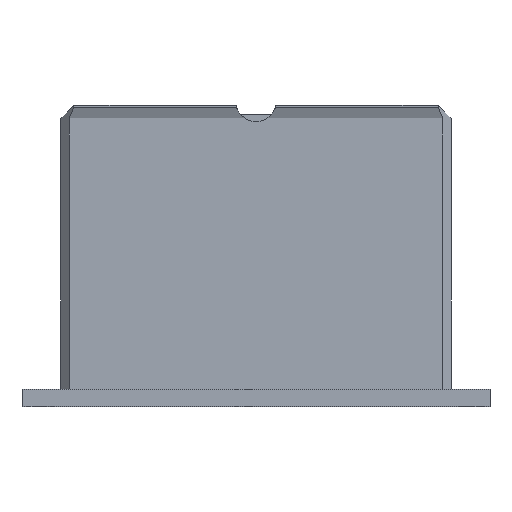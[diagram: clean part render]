
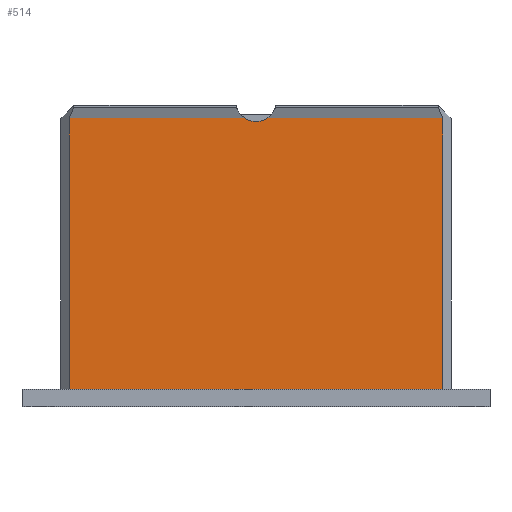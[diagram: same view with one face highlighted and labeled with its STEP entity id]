
A CAD part, top view. The second image highlights one B-rep face of the part: STEP entity #514.
In plain terms, the highlighted planar face has unit normal (0, 0, 1).
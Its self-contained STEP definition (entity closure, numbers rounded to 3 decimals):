
#24=LINE('',#792,#74);
#34=LINE('',#815,#84);
#43=LINE('',#838,#93);
#44=LINE('',#841,#94);
#47=LINE('',#846,#97);
#74=VECTOR('',#640,10.);
#84=VECTOR('',#658,10.);
#93=VECTOR('',#687,10.);
#94=VECTOR('',#690,10.);
#97=VECTOR('',#695,10.);
#155=FACE_OUTER_BOUND('',#185,.T.);
#185=EDGE_LOOP('',(#418,#419,#420,#421,#422,#423));
#207=CIRCLE('',#570,4.75);
#231=VERTEX_POINT('',#789);
#232=VERTEX_POINT('',#791);
#240=VERTEX_POINT('',#812);
#241=VERTEX_POINT('',#814);
#245=VERTEX_POINT('',#836);
#246=VERTEX_POINT('',#840);
#282=EDGE_CURVE('',#231,#232,#24,.T.);
#294=EDGE_CURVE('',#240,#241,#34,.T.);
#303=EDGE_CURVE('',#231,#241,#207,.T.);
#306=EDGE_CURVE('',#245,#240,#43,.T.);
#307=EDGE_CURVE('',#232,#246,#44,.T.);
#310=EDGE_CURVE('',#245,#246,#47,.T.);
#418=ORIENTED_EDGE('',*,*,#303,.T.);
#419=ORIENTED_EDGE('',*,*,#294,.F.);
#420=ORIENTED_EDGE('',*,*,#306,.F.);
#421=ORIENTED_EDGE('',*,*,#310,.T.);
#422=ORIENTED_EDGE('',*,*,#307,.F.);
#423=ORIENTED_EDGE('',*,*,#282,.F.);
#490=PLANE('',#574);
#514=ADVANCED_FACE('',(#155),#490,.T.);
#570=AXIS2_PLACEMENT_3D('',#831,#679,#680);
#574=AXIS2_PLACEMENT_3D('',#845,#693,#694);
#640=DIRECTION('',(1.,0.,0.));
#658=DIRECTION('',(1.,0.,0.));
#679=DIRECTION('center_axis',(0.,0.,-1.));
#680=DIRECTION('ref_axis',(-1.,0.,0.));
#687=DIRECTION('',(0.,1.,0.));
#690=DIRECTION('',(0.,-1.,0.));
#693=DIRECTION('center_axis',(0.,0.,1.));
#694=DIRECTION('ref_axis',(1.,0.,0.));
#695=DIRECTION('',(1.,0.,0.));
#789=CARTESIAN_POINT('',(2.712,-28.15,-32.));
#791=CARTESIAN_POINT('',(43.213,-28.15,-32.));
#792=CARTESIAN_POINT('',(-11.303,-28.15,-32.));
#812=CARTESIAN_POINT('',(-43.213,-28.15,-32.));
#814=CARTESIAN_POINT('',(-2.712,-28.15,-32.));
#815=CARTESIAN_POINT('',(-11.303,-28.15,-32.));
#831=CARTESIAN_POINT('Origin',(0.,-24.25,-32.));
#836=CARTESIAN_POINT('',(-43.213,-91.,-32.));
#838=CARTESIAN_POINT('',(-43.213,-44.938,-32.));
#840=CARTESIAN_POINT('',(43.213,-91.,-32.));
#841=CARTESIAN_POINT('',(43.213,-76.313,-32.));
#845=CARTESIAN_POINT('Origin',(0.,-61.625,-32.));
#846=CARTESIAN_POINT('',(27.107,-91.,-32.));
